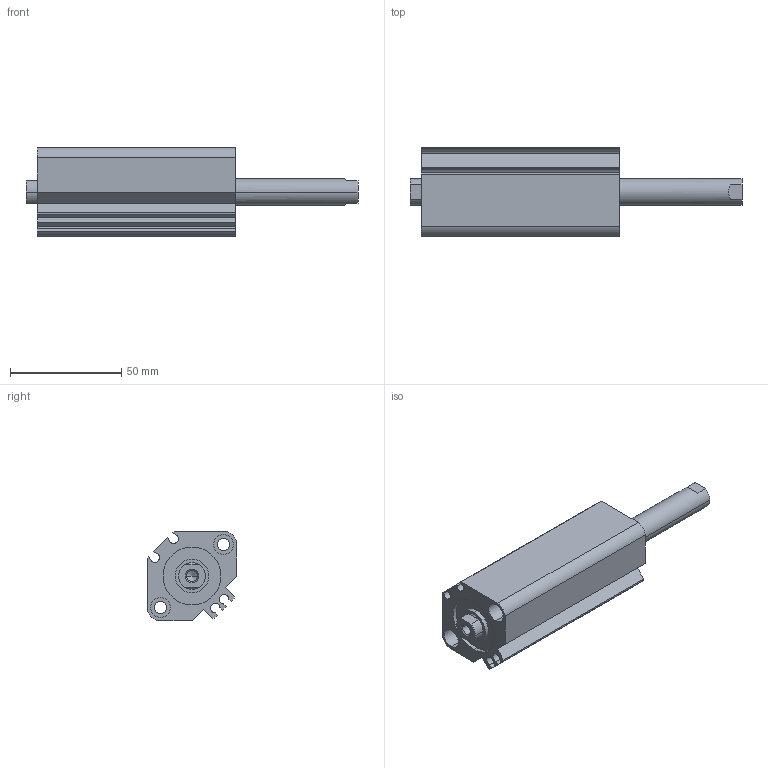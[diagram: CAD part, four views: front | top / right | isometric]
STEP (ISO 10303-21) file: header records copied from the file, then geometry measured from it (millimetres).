
FILE_DESCRIPTION (( 'STEP AP203' ), '1' );
FILE_NAME ('CCMB25-50F-P.STEP', '2020-08-05T11:11:33', ( '' ), ( '' ), 'SwSTEP 2.0', 'SolidWorks 2019', '' );
FILE_SCHEMA (( 'CONFIG_CONTROL_DESIGN' ));
Length unit declared in the file: millimetre
Products named in the file (1): CCMB25-50F-P
Bounding box: 149 x 40 x 40 mm (x, y, z)
Volume: 99756.5 mm3; surface area: 37476.1 mm2
Topology: 2 solids, 2 shells, 114 faces, 276 edges, 178 vertices
Faces by surface type: cylinder 52, plane 50, cone 12
Entity records: 3419 total; most frequent: DIRECTION 614, CARTESIAN_POINT 577, ORIENTED_EDGE 544, EDGE_CURVE 272, AXIS2_PLACEMENT_3D 231, VERTEX_POINT 178, VECTOR 152, LINE 152
